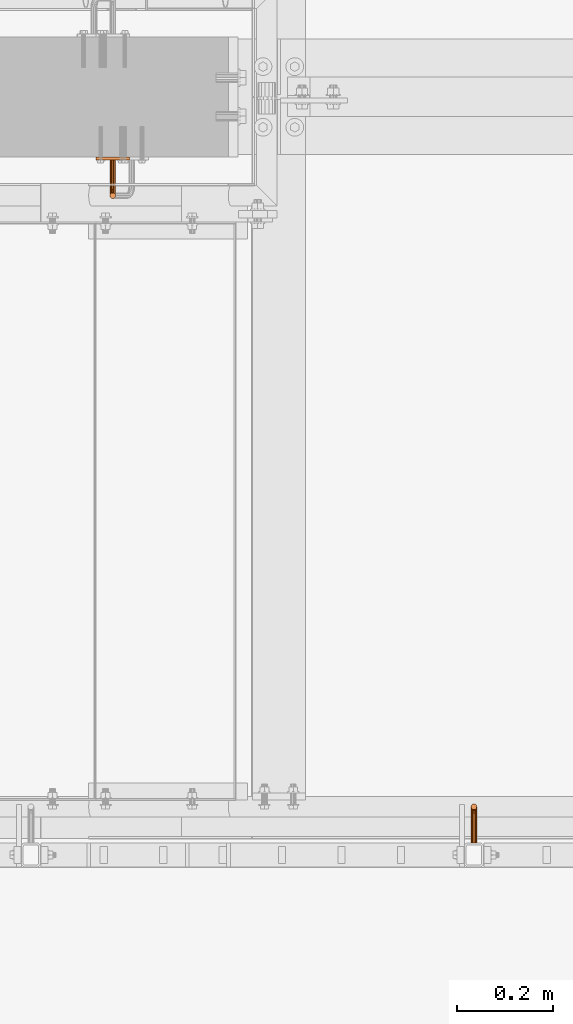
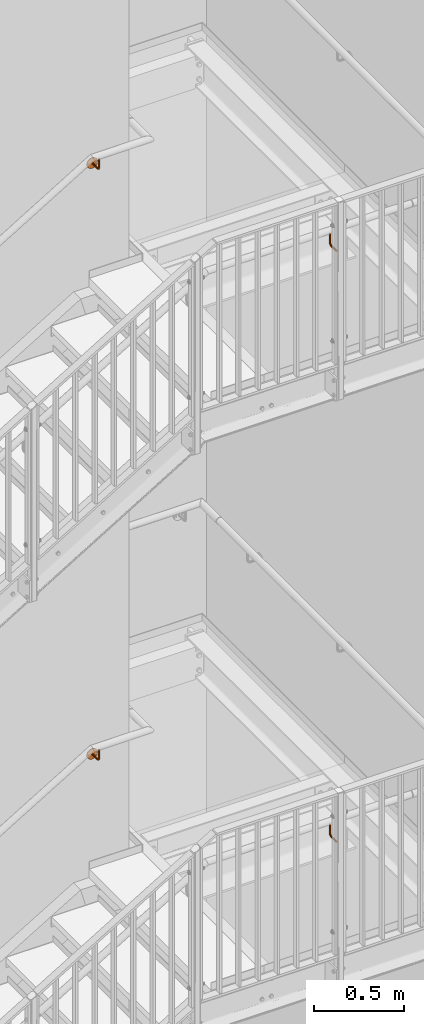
# One storey, part 385 of 410: 4 proxies.
"""IFC2X3 building model written with IfcOpenShell, lengths in millimetres."""

from ifc_helpers import new_model, entity, si_unit, converted_unit, origin_with_axes, place, context, project, spatial, faceted_brep, element, save


model = new_model("IFC2X3")

# Units and contexts
model_context = context("Model", 3, precision=1e-09, world=origin_with_axes())
ifc_project = project(units=[si_unit("LENGTHUNIT", "METRE", prefix="MILLI"), si_unit("AREAUNIT", "SQUARE_METRE"), si_unit("VOLUMEUNIT", "CUBIC_METRE"), converted_unit("PLANEANGLEUNIT", "DEGREE", entity("IfcPlaneAngleMeasure", 0.01745329), si_unit("PLANEANGLEUNIT", "RADIAN"), dimensions=[0, 0, 0, 0, 0, 0, 0])], contexts=[model_context])

# Site, building, storey
site_placement = place(None, origin_with_axes())
site = spatial("IfcSite", under=ifc_project, at=site_placement, Name="mKR Teilneubau & Sanierung BA1 - Ostfildern", CompositionType="ELEMENT")
building_placement = place(site_placement, origin_with_axes())
building = spatial("IfcBuilding", under=site, at=building_placement, Name="Struktur 1", CompositionType="ELEMENT")
storey_placement = place(building_placement, origin_with_axes())
storey = spatial("IfcBuildingStorey", under=building, at=storey_placement, Name="Default Storey", CompositionType="ELEMENT", Elevation=0.0)

# Proxies
proxy_1_placement = place(None, origin_with_axes())
element("IfcBuildingElementProxy", 1, at=proxy_1_placement, inside=storey, ObjectType="-", context=model_context, shape_type="Brep", body=[
    faceted_brep([(2285.001468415, 15487.999999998, 6663.6), (2285.001468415, 15430.999999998, 6663.6), (2288.001468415, 15430.999999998, 6662.796152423), (2288.001468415, 15487.999999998, 6662.796152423), (2279.805315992, 15430.999999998, 6654.6), (2282.001468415, 15430.999999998, 6652.403847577), (2285.001468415, 15430.999999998, 6651.6), (2288.001468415, 15430.999999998, 6652.403847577), (2290.197620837, 15430.999999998, 6654.6), (2291.001468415, 15430.999999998, 6657.6), (2290.197620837, 15430.999999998, 6660.6), (2282.001468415, 15430.999999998, 6662.796152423), (2279.805315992, 15430.999999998, 6660.6), (2279.001468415, 15430.999999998, 6657.6), (2282.001468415, 15487.999999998, 6662.796152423), (2288.001468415, 15492.899820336, 6663.770787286), (2285.001468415, 15492.592201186, 6664.51344561), (2290.197620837, 15487.999999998, 6660.6), (2282.001468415, 15492.899820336, 6663.770787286), (2285.001468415, 15496.485281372, 6667.114718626), (2282.001468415, 15497.053687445, 6666.546312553), (2288.001468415, 15497.053687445, 6666.546312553), (2290.197620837, 15493.740251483, 6661.741807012), (2279.805315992, 15487.999999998, 6660.6), (2285.001468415, 15499.086554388, 6671.007798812), (2282.001468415, 15499.829212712, 6670.700179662), (2282.001468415, 15500.803847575, 6675.6), (2282.001468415, 15500.803847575, 6732.6), (2279.805315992, 15502.999999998, 6732.6), (2279.805315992, 15502.999999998, 6675.6), (2285.001468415, 15499.999999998, 6675.6), (2285.001468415, 15499.999999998, 6732.6), (2291.001468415, 15487.999999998, 6657.6), (2279.805315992, 15501.858192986, 6669.859748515), (2279.805315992, 15493.740251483, 6661.741807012), (2279.805315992, 15498.606601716, 6664.993398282), (2290.197620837, 15508.999999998, 6732.6), (2288.001468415, 15511.196152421, 6732.6), (2285.001468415, 15511.999999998, 6732.6), (2282.001468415, 15511.196152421, 6732.6), (2279.805315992, 15508.999999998, 6732.6), (2279.001468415, 15505.999999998, 6732.6), (2288.001468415, 15500.803847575, 6732.6), (2290.197620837, 15502.999999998, 6732.6), (2291.001468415, 15505.999999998, 6732.6), (2288.001468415, 15499.829212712, 6670.700179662), (2291.001468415, 15494.888301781, 6658.970168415), (2290.197620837, 15498.606601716, 6664.993398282), (2279.001468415, 15487.999999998, 6657.6), (2279.001468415, 15505.999999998, 6675.6), (2288.001468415, 15500.803847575, 6675.6), (2290.197620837, 15487.999999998, 6654.6), (2279.001468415, 15504.629831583, 6668.711698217), (2279.001468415, 15494.888301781, 6658.970168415), (2279.001468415, 15500.727922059, 6662.872077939), (2290.197620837, 15501.858192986, 6669.859748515), (2290.197620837, 15496.036352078, 6656.198529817), (2291.001468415, 15500.727922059, 6662.872077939), (2288.001468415, 15487.999999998, 6652.403847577), (2285.001468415, 15487.999999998, 6651.6), (2282.001468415, 15487.999999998, 6652.403847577), (2279.805315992, 15487.999999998, 6654.6), (2279.805315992, 15508.999999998, 6675.6), (2290.197620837, 15502.999999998, 6675.6), (2279.805315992, 15507.401470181, 6667.56364792), (2279.805315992, 15496.036352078, 6656.198529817), (2279.805315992, 15502.849242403, 6660.750757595), (2291.001468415, 15504.629831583, 6668.711698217), (2288.001468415, 15496.876783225, 6654.169549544), (2290.197620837, 15502.849242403, 6660.750757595), (2285.001468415, 15497.184402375, 6653.42689122), (2282.001468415, 15496.876783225, 6654.169549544), (2282.001468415, 15511.196152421, 6675.6), (2291.001468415, 15505.999999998, 6675.6), (2282.001468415, 15509.430450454, 6666.723216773), (2282.001468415, 15504.402156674, 6659.197843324), (2290.197620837, 15507.401470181, 6667.56364792), (2288.001468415, 15504.402156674, 6659.197843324), (2285.001468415, 15511.999999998, 6675.6), (2285.001468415, 15504.970562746, 6658.629437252), (2290.197620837, 15508.999999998, 6675.6), (2285.001468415, 15510.173108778, 6666.415597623), (2288.001468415, 15509.430450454, 6666.723216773), (2288.001468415, 15511.196152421, 6675.6)], [[[0, 1, 2, 3]], [[4, 5, 6, 7, 8, 9, 10, 2, 1, 11, 12, 13]], [[1, 0, 14, 11]], [[0, 3, 15, 16]], [[3, 2, 10, 17]], [[16, 18, 14, 0]], [[19, 20, 18, 16]], [[16, 15, 21, 19]], [[3, 17, 22, 15]], [[11, 14, 23, 12]], [[20, 19, 24, 25]], [[26, 27, 28, 29]], [[27, 26, 30, 31]], [[17, 10, 9, 32]], [[26, 29, 33, 25]], [[18, 34, 23, 14]], [[20, 35, 34, 18]], [[25, 33, 35, 20]], [[36, 37, 38, 39, 40, 41, 28, 27, 31, 42, 43, 44]], [[25, 24, 30, 26]], [[19, 21, 45, 24]], [[17, 32, 46, 22]], [[15, 22, 47, 21]], [[12, 23, 48, 13]], [[29, 28, 41, 49]], [[31, 30, 50, 42]], [[32, 9, 8, 51]], [[29, 49, 52, 33]], [[34, 53, 48, 23]], [[35, 54, 53, 34]], [[33, 52, 54, 35]], [[24, 45, 50, 30]], [[21, 47, 55, 45]], [[32, 51, 56, 46]], [[22, 46, 57, 47]], [[7, 58, 51, 8]], [[6, 59, 58, 7]], [[5, 60, 59, 6]], [[4, 61, 60, 5]], [[13, 48, 61, 4]], [[49, 41, 40, 62]], [[42, 50, 63, 43]], [[49, 62, 64, 52]], [[53, 65, 61, 48]], [[54, 66, 65, 53]], [[52, 64, 66, 54]], [[45, 55, 63, 50]], [[47, 57, 67, 55]], [[51, 58, 68, 56]], [[46, 56, 69, 57]], [[58, 59, 70, 68]], [[59, 60, 71, 70]], [[60, 61, 65, 71]], [[62, 40, 39, 72]], [[43, 63, 73, 44]], [[62, 72, 74, 64]], [[66, 75, 71, 65]], [[64, 74, 75, 66]], [[55, 67, 73, 63]], [[57, 69, 76, 67]], [[56, 68, 77, 69]], [[72, 39, 38, 78]], [[68, 70, 79, 77]], [[70, 71, 75, 79]], [[44, 73, 80, 36]], [[72, 78, 81, 74]], [[74, 81, 79, 75]], [[67, 76, 80, 73]], [[69, 77, 82, 76]], [[78, 38, 37, 83]], [[77, 79, 81, 82]], [[36, 80, 83, 37]], [[78, 83, 82, 81]], [[76, 82, 83, 80]]]),
])
proxy_2_placement = place(None, origin_with_axes())
element("IfcBuildingElementProxy", 2, at=proxy_2_placement, inside=storey, ObjectType="-", context=model_context, shape_type="Brep", body=[
    faceted_brep([(2285.001468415, 15487.999999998, 2651.6434785), (2285.001468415, 15430.999999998, 2651.6434785), (2288.001468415, 15430.999999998, 2650.839630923), (2288.001468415, 15487.999999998, 2650.839630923), (2279.805315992, 15430.999999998, 2642.6434785), (2282.001468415, 15430.999999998, 2640.447326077), (2285.001468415, 15430.999999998, 2639.6434785), (2288.001468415, 15430.999999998, 2640.447326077), (2290.197620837, 15430.999999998, 2642.6434785), (2291.001468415, 15430.999999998, 2645.6434785), (2290.197620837, 15430.999999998, 2648.6434785), (2282.001468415, 15430.999999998, 2650.839630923), (2279.805315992, 15430.999999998, 2648.6434785), (2279.001468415, 15430.999999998, 2645.6434785), (2282.001468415, 15487.999999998, 2650.839630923), (2288.001468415, 15492.899820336, 2651.814265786), (2285.001468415, 15492.592201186, 2652.55692411), (2290.197620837, 15487.999999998, 2648.6434785), (2282.001468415, 15492.899820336, 2651.814265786), (2285.001468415, 15496.485281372, 2655.158197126), (2282.001468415, 15497.053687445, 2654.589791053), (2288.001468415, 15497.053687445, 2654.589791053), (2290.197620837, 15493.740251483, 2649.785285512), (2279.805315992, 15487.999999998, 2648.6434785), (2285.001468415, 15499.086554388, 2659.051277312), (2282.001468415, 15499.829212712, 2658.743658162), (2282.001468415, 15500.803847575, 2663.6434785), (2282.001468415, 15500.803847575, 2720.6434785), (2279.805315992, 15502.999999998, 2720.6434785), (2279.805315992, 15502.999999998, 2663.6434785), (2285.001468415, 15499.999999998, 2663.6434785), (2285.001468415, 15499.999999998, 2720.6434785), (2291.001468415, 15487.999999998, 2645.6434785), (2279.805315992, 15501.858192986, 2657.903227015), (2279.805315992, 15493.740251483, 2649.785285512), (2279.805315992, 15498.606601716, 2653.036876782), (2290.197620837, 15508.999999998, 2720.6434785), (2288.001468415, 15511.196152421, 2720.6434785), (2285.001468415, 15511.999999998, 2720.6434785), (2282.001468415, 15511.196152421, 2720.6434785), (2279.805315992, 15508.999999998, 2720.6434785), (2279.001468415, 15505.999999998, 2720.6434785), (2288.001468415, 15500.803847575, 2720.6434785), (2290.197620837, 15502.999999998, 2720.6434785), (2291.001468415, 15505.999999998, 2720.6434785), (2288.001468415, 15499.829212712, 2658.743658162), (2291.001468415, 15494.888301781, 2647.013646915), (2290.197620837, 15498.606601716, 2653.036876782), (2279.001468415, 15487.999999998, 2645.6434785), (2279.001468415, 15505.999999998, 2663.6434785), (2288.001468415, 15500.803847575, 2663.6434785), (2290.197620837, 15487.999999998, 2642.6434785), (2279.001468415, 15504.629831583, 2656.755176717), (2279.001468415, 15494.888301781, 2647.013646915), (2279.001468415, 15500.727922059, 2650.915556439), (2290.197620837, 15501.858192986, 2657.903227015), (2290.197620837, 15496.036352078, 2644.242008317), (2291.001468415, 15500.727922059, 2650.915556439), (2288.001468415, 15487.999999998, 2640.447326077), (2285.001468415, 15487.999999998, 2639.6434785), (2282.001468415, 15487.999999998, 2640.447326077), (2279.805315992, 15487.999999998, 2642.6434785), (2279.805315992, 15508.999999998, 2663.6434785), (2290.197620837, 15502.999999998, 2663.6434785), (2279.805315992, 15507.401470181, 2655.60712642), (2279.805315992, 15496.036352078, 2644.242008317), (2279.805315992, 15502.849242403, 2648.794236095), (2291.001468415, 15504.629831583, 2656.755176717), (2288.001468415, 15496.876783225, 2642.213028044), (2290.197620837, 15502.849242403, 2648.794236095), (2285.001468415, 15497.184402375, 2641.47036972), (2282.001468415, 15496.876783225, 2642.213028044), (2282.001468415, 15511.196152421, 2663.6434785), (2291.001468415, 15505.999999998, 2663.6434785), (2282.001468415, 15509.430450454, 2654.766695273), (2282.001468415, 15504.402156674, 2647.241321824), (2290.197620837, 15507.401470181, 2655.60712642), (2288.001468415, 15504.402156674, 2647.241321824), (2285.001468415, 15511.999999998, 2663.6434785), (2285.001468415, 15504.970562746, 2646.672915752), (2290.197620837, 15508.999999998, 2663.6434785), (2285.001468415, 15510.173108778, 2654.459076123), (2288.001468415, 15509.430450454, 2654.766695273), (2288.001468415, 15511.196152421, 2663.6434785)], [[[0, 1, 2, 3]], [[4, 5, 6, 7, 8, 9, 10, 2, 1, 11, 12, 13]], [[1, 0, 14, 11]], [[0, 3, 15, 16]], [[3, 2, 10, 17]], [[16, 18, 14, 0]], [[19, 20, 18, 16]], [[16, 15, 21, 19]], [[3, 17, 22, 15]], [[11, 14, 23, 12]], [[20, 19, 24, 25]], [[26, 27, 28, 29]], [[27, 26, 30, 31]], [[17, 10, 9, 32]], [[26, 29, 33, 25]], [[18, 34, 23, 14]], [[20, 35, 34, 18]], [[25, 33, 35, 20]], [[36, 37, 38, 39, 40, 41, 28, 27, 31, 42, 43, 44]], [[25, 24, 30, 26]], [[19, 21, 45, 24]], [[17, 32, 46, 22]], [[15, 22, 47, 21]], [[12, 23, 48, 13]], [[29, 28, 41, 49]], [[31, 30, 50, 42]], [[32, 9, 8, 51]], [[29, 49, 52, 33]], [[34, 53, 48, 23]], [[35, 54, 53, 34]], [[33, 52, 54, 35]], [[24, 45, 50, 30]], [[21, 47, 55, 45]], [[32, 51, 56, 46]], [[22, 46, 57, 47]], [[7, 58, 51, 8]], [[6, 59, 58, 7]], [[5, 60, 59, 6]], [[4, 61, 60, 5]], [[13, 48, 61, 4]], [[49, 41, 40, 62]], [[42, 50, 63, 43]], [[49, 62, 64, 52]], [[53, 65, 61, 48]], [[54, 66, 65, 53]], [[52, 64, 66, 54]], [[45, 55, 63, 50]], [[47, 57, 67, 55]], [[51, 58, 68, 56]], [[46, 56, 69, 57]], [[58, 59, 70, 68]], [[59, 60, 71, 70]], [[60, 61, 65, 71]], [[62, 40, 39, 72]], [[43, 63, 73, 44]], [[62, 72, 74, 64]], [[66, 75, 71, 65]], [[64, 74, 75, 66]], [[55, 67, 73, 63]], [[57, 69, 76, 67]], [[56, 68, 77, 69]], [[72, 39, 38, 78]], [[68, 70, 79, 77]], [[70, 71, 75, 79]], [[44, 73, 80, 36]], [[72, 78, 81, 74]], [[74, 81, 79, 75]], [[67, 76, 80, 73]], [[69, 77, 82, 76]], [[78, 38, 37, 83]], [[77, 79, 81, 82]], [[36, 80, 83, 37]], [[78, 83, 82, 81]], [[76, 82, 83, 80]]]),
])
proxy_3_placement = place(None, origin_with_axes())
element("IfcBuildingElementProxy", 3, at=proxy_3_placement, inside=storey, ObjectType="-", context=model_context, shape_type="Brep", body=[
    faceted_brep([(1506.319392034, 16855.0, 2647.7684785), (1506.319392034, 16849.0, 2647.7684785), (1505.75, 16849.0, 2645.6434785), (1505.75, 16855.0, 2645.6434785), (1554.143185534, 16849.0, 2674.944305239), (1543.59199205, 16849.0, 2679.572487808), (1532.109722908, 16849.0, 2680.523935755), (1520.940660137, 16849.0, 2677.695544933), (1511.295144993, 16849.0, 2671.393815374), (1504.218418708, 16849.0, 2662.301637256), (1500.477354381, 16849.0, 2651.40428916), (1500.477354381, 16849.0, 2639.88266784), (1504.218418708, 16849.0, 2628.985319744), (1511.295144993, 16849.0, 2619.893141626), (1520.940660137, 16849.0, 2613.591412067), (1532.109722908, 16849.0, 2610.763021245), (1543.59199205, 16849.0, 2611.714469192), (1554.143185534, 16849.0, 2616.342651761), (1562.619917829, 16849.0, 2624.146033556), (1568.103603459, 16849.0, 2634.278997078), (1570.0, 16849.0, 2645.6434785), (1568.103603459, 16849.0, 2657.007959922), (1562.619917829, 16849.0, 2667.140923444), (1507.875, 16849.0, 2649.324086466), (1510.0, 16849.0, 2649.8934785), (1512.125, 16849.0, 2649.324086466), (1513.680607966, 16849.0, 2647.7684785), (1514.25, 16849.0, 2645.6434785), (1513.680607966, 16849.0, 2643.5184785), (1512.125, 16849.0, 2641.962870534), (1510.0, 16849.0, 2641.3934785), (1507.875, 16849.0, 2641.962870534), (1506.319392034, 16849.0, 2643.5184785), (1556.319392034, 16849.0, 2647.7684785), (1557.875, 16849.0, 2649.324086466), (1560.0, 16849.0, 2649.8934785), (1562.125, 16849.0, 2649.324086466), (1563.680607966, 16849.0, 2647.7684785), (1564.25, 16849.0, 2645.6434785), (1563.680607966, 16849.0, 2643.5184785), (1562.125, 16849.0, 2641.962870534), (1560.0, 16849.0, 2641.3934785), (1557.875, 16849.0, 2641.962870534), (1556.319392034, 16849.0, 2643.5184785), (1555.75, 16849.0, 2645.6434785), (1507.875, 16855.0, 2649.324086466), (1554.143185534, 16855.0, 2616.342651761), (1543.59199205, 16855.0, 2611.714469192), (1532.109722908, 16855.0, 2610.763021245), (1520.940660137, 16855.0, 2613.591412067), (1511.295144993, 16855.0, 2619.893141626), (1504.218418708, 16855.0, 2628.985319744), (1500.477354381, 16855.0, 2639.88266784), (1500.477354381, 16855.0, 2651.40428916), (1504.218418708, 16855.0, 2662.301637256), (1511.295144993, 16855.0, 2671.393815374), (1520.940660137, 16855.0, 2677.695544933), (1532.109722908, 16855.0, 2680.523935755), (1543.59199205, 16855.0, 2679.572487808), (1554.143185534, 16855.0, 2674.944305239), (1562.619917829, 16855.0, 2667.140923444), (1568.103603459, 16855.0, 2657.007959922), (1570.0, 16855.0, 2645.6434785), (1568.103603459, 16855.0, 2634.278997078), (1562.619917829, 16855.0, 2624.146033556), (1506.319392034, 16855.0, 2643.5184785), (1507.875, 16855.0, 2641.962870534), (1510.0, 16855.0, 2641.3934785), (1512.125, 16855.0, 2641.962870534), (1513.680607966, 16855.0, 2643.5184785), (1514.25, 16855.0, 2645.6434785), (1513.680607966, 16855.0, 2647.7684785), (1512.125, 16855.0, 2649.324086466), (1510.0, 16855.0, 2649.8934785), (1556.319392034, 16855.0, 2643.5184785), (1557.875, 16855.0, 2641.962870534), (1560.0, 16855.0, 2641.3934785), (1562.125, 16855.0, 2641.962870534), (1563.680607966, 16855.0, 2643.5184785), (1564.25, 16855.0, 2645.6434785), (1563.680607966, 16855.0, 2647.7684785), (1562.125, 16855.0, 2649.324086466), (1560.0, 16855.0, 2649.8934785), (1557.875, 16855.0, 2649.324086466), (1556.319392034, 16855.0, 2647.7684785), (1555.75, 16855.0, 2645.6434785)], [[[0, 1, 2, 3]], [[4, 5, 6, 7, 8, 9, 10, 11, 12, 13, 14, 15, 16, 17, 18, 19, 20, 21, 22], [2, 1, 23, 24, 25, 26, 27, 28, 29, 30, 31, 32], [33, 34, 35, 36, 37, 38, 39, 40, 41, 42, 43, 44]], [[1, 0, 45, 23]], [[46, 47, 48, 49, 50, 51, 52, 53, 54, 55, 56, 57, 58, 59, 60, 61, 62, 63, 64], [0, 3, 65, 66, 67, 68, 69, 70, 71, 72, 73, 45], [74, 75, 76, 77, 78, 79, 80, 81, 82, 83, 84, 85]], [[3, 2, 32, 65]], [[10, 53, 52, 11]], [[65, 32, 31, 66]], [[23, 45, 73, 24]], [[53, 10, 9, 54]], [[66, 31, 30, 67]], [[11, 52, 51, 12]], [[24, 73, 72, 25]], [[8, 55, 54, 9]], [[67, 30, 29, 68]], [[55, 8, 7, 56]], [[50, 13, 12, 51]], [[25, 72, 71, 26]], [[13, 50, 49, 14]], [[68, 29, 28, 69]], [[26, 71, 70, 27]], [[56, 7, 6, 57]], [[69, 28, 27, 70]], [[14, 49, 48, 15]], [[57, 6, 5, 58]], [[44, 85, 84, 33]], [[15, 48, 47, 16]], [[85, 44, 43, 74]], [[33, 84, 83, 34]], [[58, 5, 4, 59]], [[16, 47, 46, 17]], [[74, 43, 42, 75]], [[34, 83, 82, 35]], [[59, 4, 22, 60]], [[17, 46, 64, 18]], [[75, 42, 41, 76]], [[35, 82, 81, 36]], [[60, 22, 21, 61]], [[18, 64, 63, 19]], [[76, 41, 40, 77]], [[20, 62, 61, 21]], [[36, 81, 80, 37]], [[62, 20, 19, 63]], [[77, 40, 39, 78]], [[37, 80, 79, 38]], [[78, 39, 38, 79]]]),
    faceted_brep([(1541.0, 16793.0, 2645.6434785), (1541.0, 16849.0, 2645.6434785), (1540.196152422, 16849.0, 2648.6434785), (1540.196152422, 16793.0, 2648.6434785), (1540.196152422, 16772.0, 2663.6434785), (1540.196152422, 16772.0, 2720.6434785), (1538.0, 16769.803847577, 2720.6434785), (1538.0, 16769.803847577, 2663.6434785), (1541.0, 16775.0, 2663.6434785), (1541.0, 16775.0, 2720.6434785), (1538.0, 16771.569549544, 2654.766695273), (1540.196152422, 16773.598529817, 2655.60712642), (1532.0, 16849.0, 2640.447326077), (1529.803847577, 16849.0, 2642.6434785), (1529.0, 16849.0, 2645.6434785), (1529.803847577, 16849.0, 2648.6434785), (1532.0, 16849.0, 2650.839630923), (1535.0, 16849.0, 2651.6434785), (1538.0, 16849.0, 2650.839630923), (1540.196152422, 16849.0, 2642.6434785), (1538.0, 16849.0, 2640.447326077), (1535.0, 16849.0, 2639.6434785), (1540.196152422, 16793.0, 2642.6434785), (1540.196152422, 16787.259748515, 2649.785285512), (1541.0, 16786.111698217, 2647.013646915), (1532.0, 16780.196152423, 2720.6434785), (1529.803847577, 16778.0, 2720.6434785), (1529.0, 16775.0, 2720.6434785), (1529.803847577, 16772.0, 2720.6434785), (1532.0, 16769.803847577, 2720.6434785), (1535.0, 16769.0, 2720.6434785), (1540.196152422, 16778.0, 2720.6434785), (1538.0, 16780.196152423, 2720.6434785), (1535.0, 16781.0, 2720.6434785), (1541.0, 16776.370168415, 2656.755176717), (1540.196152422, 16778.150757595, 2648.794236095), (1541.0, 16780.272077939, 2650.915556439), (1538.0, 16793.0, 2650.839630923), (1540.196152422, 16784.96364792, 2644.242008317), (1535.0, 16769.0, 2663.6434785), (1540.196152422, 16778.0, 2663.6434785), (1535.0, 16770.82689122, 2654.459076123), (1538.0, 16776.597843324, 2647.241321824), (1540.196152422, 16782.393398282, 2653.036876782), (1538.0, 16788.100179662, 2651.814265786), (1538.0, 16793.0, 2640.447326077), (1540.196152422, 16779.141807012, 2657.903227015), (1535.0, 16793.0, 2651.6434785), (1538.0, 16784.123216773, 2642.213028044), (1532.0, 16769.803847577, 2663.6434785), (1538.0, 16780.196152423, 2663.6434785), (1532.0, 16771.569549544, 2654.766695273), (1535.0, 16776.029437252, 2646.672915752), (1538.0, 16783.946312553, 2654.589791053), (1535.0, 16788.407798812, 2652.55692411), (1535.0, 16793.0, 2639.6434785), (1538.0, 16781.170787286, 2658.743658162), (1529.803847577, 16772.0, 2663.6434785), (1532.0, 16793.0, 2650.839630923), (1535.0, 16783.815597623, 2641.47036972), (1535.0, 16781.0, 2663.6434785), (1529.803847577, 16773.598529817, 2655.60712642), (1532.0, 16776.597843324, 2647.241321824), (1535.0, 16784.514718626, 2655.158197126), (1532.0, 16788.100179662, 2651.814265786), (1532.0, 16793.0, 2640.447326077), (1535.0, 16781.91344561, 2659.051277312), (1529.0, 16775.0, 2663.6434785), (1529.803847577, 16793.0, 2648.6434785), (1532.0, 16784.123216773, 2642.213028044), (1532.0, 16780.196152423, 2663.6434785), (1529.803847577, 16778.0, 2663.6434785), (1529.0, 16776.370168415, 2656.755176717), (1529.803847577, 16778.150757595, 2648.794236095), (1532.0, 16783.946312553, 2654.589791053), (1529.803847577, 16787.259748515, 2649.785285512), (1529.0, 16793.0, 2645.6434785), (1529.803847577, 16793.0, 2642.6434785), (1532.0, 16781.170787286, 2658.743658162), (1529.803847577, 16784.96364792, 2644.242008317), (1529.803847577, 16779.141807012, 2657.903227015), (1529.0, 16780.272077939, 2650.915556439), (1529.0, 16786.111698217, 2647.013646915), (1529.803847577, 16782.393398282, 2653.036876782)], [[[0, 1, 2, 3]], [[4, 5, 6, 7]], [[5, 4, 8, 9]], [[4, 7, 10, 11]], [[12, 13, 14, 15, 16, 17, 18, 2, 1, 19, 20, 21]], [[1, 0, 22, 19]], [[0, 3, 23, 24]], [[25, 26, 27, 28, 29, 30, 6, 5, 9, 31, 32, 33]], [[11, 34, 8, 4]], [[35, 36, 34, 11]], [[3, 2, 18, 37]], [[24, 38, 22, 0]], [[36, 35, 38, 24]], [[7, 6, 30, 39]], [[9, 8, 40, 31]], [[7, 39, 41, 10]], [[11, 10, 42, 35]], [[24, 23, 43, 36]], [[3, 37, 44, 23]], [[19, 22, 45, 20]], [[36, 43, 46, 34]], [[34, 46, 40, 8]], [[37, 18, 17, 47]], [[38, 48, 45, 22]], [[35, 42, 48, 38]], [[39, 30, 29, 49]], [[31, 40, 50, 32]], [[39, 49, 51, 41]], [[10, 41, 52, 42]], [[23, 44, 53, 43]], [[37, 47, 54, 44]], [[20, 45, 55, 21]], [[43, 53, 56, 46]], [[46, 56, 50, 40]], [[49, 29, 28, 57]], [[47, 17, 16, 58]], [[48, 59, 55, 45]], [[42, 52, 59, 48]], [[32, 50, 60, 33]], [[49, 57, 61, 51]], [[41, 51, 62, 52]], [[44, 54, 63, 53]], [[47, 58, 64, 54]], [[21, 55, 65, 12]], [[56, 66, 60, 50]], [[53, 63, 66, 56]], [[57, 28, 27, 67]], [[58, 16, 15, 68]], [[59, 69, 65, 55]], [[52, 62, 69, 59]], [[33, 60, 70, 25]], [[26, 71, 67, 27]], [[25, 70, 71, 26]], [[57, 67, 72, 61]], [[51, 61, 73, 62]], [[54, 64, 74, 63]], [[58, 68, 75, 64]], [[14, 76, 68, 15]], [[13, 77, 76, 14]], [[12, 65, 77, 13]], [[66, 78, 70, 60]], [[63, 74, 78, 66]], [[69, 79, 77, 65]], [[62, 73, 79, 69]], [[67, 71, 80, 72]], [[71, 70, 78, 80]], [[61, 72, 81, 73]], [[68, 76, 82, 75]], [[64, 75, 83, 74]], [[76, 77, 79, 82]], [[74, 83, 80, 78]], [[73, 81, 82, 79]], [[72, 80, 83, 81]], [[75, 82, 81, 83]]]),
])
proxy_4_placement = place(None, origin_with_axes())
element("IfcBuildingElementProxy", 4, at=proxy_4_placement, inside=storey, ObjectType="-", context=model_context, shape_type="Brep", body=[
    faceted_brep([(1506.319392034, 16855.0, 6659.725), (1506.319392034, 16849.0, 6659.725), (1505.75, 16849.0, 6657.6), (1505.75, 16855.0, 6657.6), (1554.143185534, 16849.0, 6686.900826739), (1543.59199205, 16849.0, 6691.529009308), (1532.109722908, 16849.0, 6692.480457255), (1520.940660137, 16849.0, 6689.652066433), (1511.295144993, 16849.0, 6683.350336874), (1504.218418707, 16849.0, 6674.258158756), (1500.477354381, 16849.0, 6663.36081066), (1500.477354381, 16849.0, 6651.83918934), (1504.218418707, 16849.0, 6640.941841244), (1511.295144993, 16849.0, 6631.849663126), (1520.940660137, 16849.0, 6625.547933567), (1532.109722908, 16849.0, 6622.719542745), (1543.59199205, 16849.0, 6623.670990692), (1554.143185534, 16849.0, 6628.299173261), (1562.619917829, 16849.0, 6636.102555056), (1568.103603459, 16849.0, 6646.235518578), (1570.0, 16849.0, 6657.6), (1568.103603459, 16849.0, 6668.964481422), (1562.619917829, 16849.0, 6679.097444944), (1507.875, 16849.0, 6661.280607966), (1510.0, 16849.0, 6661.85), (1512.125, 16849.0, 6661.280607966), (1513.680607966, 16849.0, 6659.725), (1514.25, 16849.0, 6657.6), (1513.680607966, 16849.0, 6655.475), (1512.125, 16849.0, 6653.919392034), (1510.0, 16849.0, 6653.35), (1507.875, 16849.0, 6653.919392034), (1506.319392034, 16849.0, 6655.475), (1556.319392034, 16849.0, 6659.725), (1557.875, 16849.0, 6661.280607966), (1560.0, 16849.0, 6661.85), (1562.125, 16849.0, 6661.280607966), (1563.680607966, 16849.0, 6659.725), (1564.25, 16849.0, 6657.6), (1563.680607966, 16849.0, 6655.475), (1562.125, 16849.0, 6653.919392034), (1560.0, 16849.0, 6653.35), (1557.875, 16849.0, 6653.919392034), (1556.319392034, 16849.0, 6655.475), (1555.75, 16849.0, 6657.6), (1507.875, 16855.0, 6661.280607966), (1554.143185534, 16855.0, 6628.299173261), (1543.59199205, 16855.0, 6623.670990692), (1532.109722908, 16855.0, 6622.719542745), (1520.940660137, 16855.0, 6625.547933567), (1511.295144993, 16855.0, 6631.849663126), (1504.218418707, 16855.0, 6640.941841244), (1500.477354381, 16855.0, 6651.83918934), (1500.477354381, 16855.0, 6663.36081066), (1504.218418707, 16855.0, 6674.258158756), (1511.295144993, 16855.0, 6683.350336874), (1520.940660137, 16855.0, 6689.652066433), (1532.109722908, 16855.0, 6692.480457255), (1543.59199205, 16855.0, 6691.529009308), (1554.143185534, 16855.0, 6686.900826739), (1562.619917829, 16855.0, 6679.097444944), (1568.103603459, 16855.0, 6668.964481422), (1570.0, 16855.0, 6657.6), (1568.103603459, 16855.0, 6646.235518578), (1562.619917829, 16855.0, 6636.102555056), (1506.319392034, 16855.0, 6655.475), (1507.875, 16855.0, 6653.919392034), (1510.0, 16855.0, 6653.35), (1512.125, 16855.0, 6653.919392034), (1513.680607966, 16855.0, 6655.475), (1514.25, 16855.0, 6657.6), (1513.680607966, 16855.0, 6659.725), (1512.125, 16855.0, 6661.280607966), (1510.0, 16855.0, 6661.85), (1556.319392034, 16855.0, 6655.475), (1557.875, 16855.0, 6653.919392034), (1560.0, 16855.0, 6653.35), (1562.125, 16855.0, 6653.919392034), (1563.680607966, 16855.0, 6655.475), (1564.25, 16855.0, 6657.6), (1563.680607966, 16855.0, 6659.725), (1562.125, 16855.0, 6661.280607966), (1560.0, 16855.0, 6661.85), (1557.875, 16855.0, 6661.280607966), (1556.319392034, 16855.0, 6659.725), (1555.75, 16855.0, 6657.6)], [[[0, 1, 2, 3]], [[4, 5, 6, 7, 8, 9, 10, 11, 12, 13, 14, 15, 16, 17, 18, 19, 20, 21, 22], [2, 1, 23, 24, 25, 26, 27, 28, 29, 30, 31, 32], [33, 34, 35, 36, 37, 38, 39, 40, 41, 42, 43, 44]], [[1, 0, 45, 23]], [[46, 47, 48, 49, 50, 51, 52, 53, 54, 55, 56, 57, 58, 59, 60, 61, 62, 63, 64], [0, 3, 65, 66, 67, 68, 69, 70, 71, 72, 73, 45], [74, 75, 76, 77, 78, 79, 80, 81, 82, 83, 84, 85]], [[3, 2, 32, 65]], [[10, 53, 52, 11]], [[65, 32, 31, 66]], [[23, 45, 73, 24]], [[53, 10, 9, 54]], [[66, 31, 30, 67]], [[11, 52, 51, 12]], [[24, 73, 72, 25]], [[8, 55, 54, 9]], [[67, 30, 29, 68]], [[55, 8, 7, 56]], [[50, 13, 12, 51]], [[25, 72, 71, 26]], [[13, 50, 49, 14]], [[68, 29, 28, 69]], [[26, 71, 70, 27]], [[56, 7, 6, 57]], [[69, 28, 27, 70]], [[14, 49, 48, 15]], [[57, 6, 5, 58]], [[44, 85, 84, 33]], [[15, 48, 47, 16]], [[85, 44, 43, 74]], [[33, 84, 83, 34]], [[58, 5, 4, 59]], [[16, 47, 46, 17]], [[74, 43, 42, 75]], [[34, 83, 82, 35]], [[59, 4, 22, 60]], [[17, 46, 64, 18]], [[75, 42, 41, 76]], [[35, 82, 81, 36]], [[60, 22, 21, 61]], [[18, 64, 63, 19]], [[76, 41, 40, 77]], [[20, 62, 61, 21]], [[36, 81, 80, 37]], [[62, 20, 19, 63]], [[77, 40, 39, 78]], [[37, 80, 79, 38]], [[78, 39, 38, 79]]]),
    faceted_brep([(1541.0, 16793.0, 6657.6), (1541.0, 16849.0, 6657.6), (1540.196152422, 16849.0, 6660.6), (1540.196152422, 16793.0, 6660.6), (1540.196152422, 16772.0, 6675.6), (1540.196152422, 16772.0, 6732.6), (1538.0, 16769.803847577, 6732.6), (1538.0, 16769.803847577, 6675.6), (1541.0, 16775.0, 6675.6), (1541.0, 16775.0, 6732.6), (1538.0, 16771.569549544, 6666.723216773), (1540.196152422, 16773.598529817, 6667.56364792), (1532.0, 16849.0, 6652.403847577), (1529.803847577, 16849.0, 6654.6), (1529.0, 16849.0, 6657.6), (1529.803847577, 16849.0, 6660.6), (1532.0, 16849.0, 6662.796152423), (1535.0, 16849.0, 6663.6), (1538.0, 16849.0, 6662.796152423), (1540.196152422, 16849.0, 6654.6), (1538.0, 16849.0, 6652.403847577), (1535.0, 16849.0, 6651.6), (1540.196152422, 16793.0, 6654.6), (1540.196152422, 16787.259748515, 6661.741807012), (1541.0, 16786.111698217, 6658.970168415), (1532.0, 16780.196152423, 6732.6), (1529.803847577, 16778.0, 6732.6), (1529.0, 16775.0, 6732.6), (1529.803847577, 16772.0, 6732.6), (1532.0, 16769.803847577, 6732.6), (1535.0, 16769.0, 6732.6), (1540.196152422, 16778.0, 6732.6), (1538.0, 16780.196152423, 6732.6), (1535.0, 16781.0, 6732.6), (1541.0, 16776.370168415, 6668.711698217), (1540.196152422, 16778.150757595, 6660.750757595), (1541.0, 16780.272077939, 6662.872077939), (1538.0, 16793.0, 6662.796152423), (1540.196152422, 16784.96364792, 6656.198529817), (1535.0, 16769.0, 6675.6), (1540.196152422, 16778.0, 6675.6), (1535.0, 16770.82689122, 6666.415597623), (1538.0, 16776.597843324, 6659.197843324), (1540.196152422, 16782.393398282, 6664.993398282), (1538.0, 16788.100179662, 6663.770787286), (1538.0, 16793.0, 6652.403847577), (1540.196152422, 16779.141807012, 6669.859748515), (1535.0, 16793.0, 6663.6), (1538.0, 16784.123216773, 6654.169549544), (1532.0, 16769.803847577, 6675.6), (1538.0, 16780.196152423, 6675.6), (1532.0, 16771.569549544, 6666.723216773), (1535.0, 16776.029437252, 6658.629437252), (1538.0, 16783.946312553, 6666.546312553), (1535.0, 16788.407798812, 6664.51344561), (1535.0, 16793.0, 6651.6), (1538.0, 16781.170787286, 6670.700179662), (1529.803847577, 16772.0, 6675.6), (1532.0, 16793.0, 6662.796152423), (1535.0, 16783.815597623, 6653.42689122), (1535.0, 16781.0, 6675.6), (1529.803847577, 16773.598529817, 6667.56364792), (1532.0, 16776.597843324, 6659.197843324), (1535.0, 16784.514718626, 6667.114718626), (1532.0, 16788.100179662, 6663.770787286), (1532.0, 16793.0, 6652.403847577), (1535.0, 16781.91344561, 6671.007798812), (1529.0, 16775.0, 6675.6), (1529.803847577, 16793.0, 6660.6), (1532.0, 16784.123216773, 6654.169549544), (1532.0, 16780.196152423, 6675.6), (1529.803847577, 16778.0, 6675.6), (1529.0, 16776.370168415, 6668.711698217), (1529.803847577, 16778.150757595, 6660.750757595), (1532.0, 16783.946312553, 6666.546312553), (1529.803847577, 16787.259748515, 6661.741807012), (1529.0, 16793.0, 6657.6), (1529.803847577, 16793.0, 6654.6), (1532.0, 16781.170787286, 6670.700179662), (1529.803847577, 16784.96364792, 6656.198529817), (1529.803847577, 16779.141807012, 6669.859748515), (1529.0, 16780.272077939, 6662.872077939), (1529.0, 16786.111698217, 6658.970168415), (1529.803847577, 16782.393398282, 6664.993398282)], [[[0, 1, 2, 3]], [[4, 5, 6, 7]], [[5, 4, 8, 9]], [[4, 7, 10, 11]], [[12, 13, 14, 15, 16, 17, 18, 2, 1, 19, 20, 21]], [[1, 0, 22, 19]], [[0, 3, 23, 24]], [[25, 26, 27, 28, 29, 30, 6, 5, 9, 31, 32, 33]], [[11, 34, 8, 4]], [[35, 36, 34, 11]], [[3, 2, 18, 37]], [[24, 38, 22, 0]], [[36, 35, 38, 24]], [[7, 6, 30, 39]], [[9, 8, 40, 31]], [[7, 39, 41, 10]], [[11, 10, 42, 35]], [[24, 23, 43, 36]], [[3, 37, 44, 23]], [[19, 22, 45, 20]], [[36, 43, 46, 34]], [[34, 46, 40, 8]], [[37, 18, 17, 47]], [[38, 48, 45, 22]], [[35, 42, 48, 38]], [[39, 30, 29, 49]], [[31, 40, 50, 32]], [[39, 49, 51, 41]], [[10, 41, 52, 42]], [[23, 44, 53, 43]], [[37, 47, 54, 44]], [[20, 45, 55, 21]], [[43, 53, 56, 46]], [[46, 56, 50, 40]], [[49, 29, 28, 57]], [[47, 17, 16, 58]], [[48, 59, 55, 45]], [[42, 52, 59, 48]], [[32, 50, 60, 33]], [[49, 57, 61, 51]], [[41, 51, 62, 52]], [[44, 54, 63, 53]], [[47, 58, 64, 54]], [[21, 55, 65, 12]], [[56, 66, 60, 50]], [[53, 63, 66, 56]], [[57, 28, 27, 67]], [[58, 16, 15, 68]], [[59, 69, 65, 55]], [[52, 62, 69, 59]], [[33, 60, 70, 25]], [[26, 71, 67, 27]], [[25, 70, 71, 26]], [[57, 67, 72, 61]], [[51, 61, 73, 62]], [[54, 64, 74, 63]], [[58, 68, 75, 64]], [[14, 76, 68, 15]], [[13, 77, 76, 14]], [[12, 65, 77, 13]], [[66, 78, 70, 60]], [[63, 74, 78, 66]], [[69, 79, 77, 65]], [[62, 73, 79, 69]], [[67, 71, 80, 72]], [[71, 70, 78, 80]], [[61, 72, 81, 73]], [[68, 76, 82, 75]], [[64, 75, 83, 74]], [[76, 77, 79, 82]], [[74, 83, 80, 78]], [[73, 81, 82, 79]], [[72, 80, 83, 81]], [[75, 82, 81, 83]]]),
])

save(model, "model.ifc")
